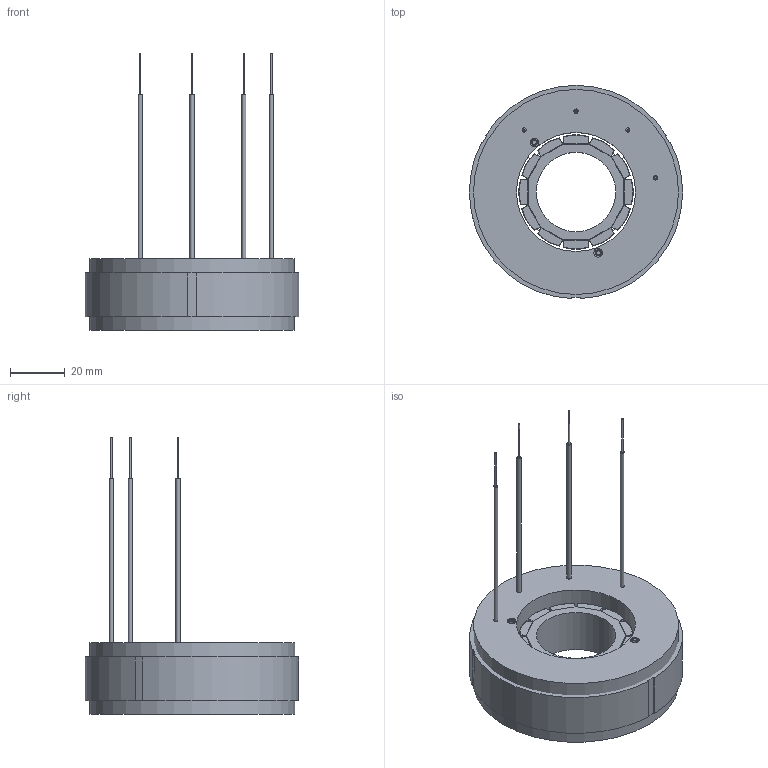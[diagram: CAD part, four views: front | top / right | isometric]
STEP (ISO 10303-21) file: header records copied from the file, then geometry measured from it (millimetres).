
FILE_DESCRIPTION(/* description */ ('Torque_QTR_78_25_Y_Kit_CAD_190315.stp'),/* implementation_level */ '2;1');
FILE_NAME(/* name */ 'Torque_QTR_78_25_Y_Kit_CAD_190315',/* time_stamp */ '2019-03-15T14:24:29+01:00',/* author */ ('Tecnotion'),/* organization */ ('Tecnotion'),/* preprocessor_version */ 'ST-DEVELOPER v16.7',/* originating_system */ 'DEX',/* authorisation */ $);
FILE_SCHEMA (('AP203_CONFIGURATION_CONTROLLED_3D_DESIGN_OF_MECHANICAL_PARTS_AND_ASSEMBLIES_MIM_LF { 1 0 10303 203 3 1 4 }','AUTOMOTIVE_DESIGN {1 0 10303 214 3 1 1}'));
Length unit declared in the file: millimetre
Products named in the file (2): 1083992_190314
Assembly tree (1 placements, depth 2):
  1083992_190314
    1083992_190314
Bounding box: 77.99 x 77.97 x 101.3 mm (x, y, z)
Surface area: 31428.5 mm2 (no closed solid volume)
Topology: 0 solids, 22 shells, 367 faces, 1165 edges, 716 vertices
Faces by surface type: plane 158, cylinder 116, sphere 36, bspline 31, torus 24, cone 2
Full cylindrical faces by diameter (mm): 0.6 x4, 1.5 x6, 1.65 x2, 3.2 x2, 29 x1, 43.5 x1, 75 x1
Entity records: 14269 total; most frequent: CARTESIAN_POINT 4870, DIRECTION 1808, ORIENTED_EDGE 1626, EDGE_CURVE 1104, VERTEX_POINT 714, AXIS2_PLACEMENT_3D 700, EDGE_LOOP 436, FACE_BOUND 436
